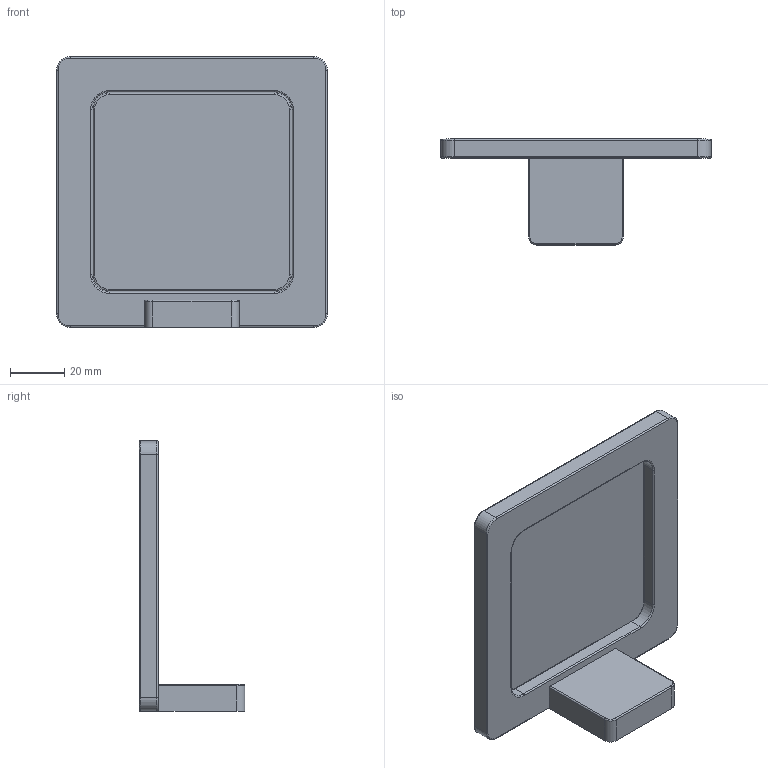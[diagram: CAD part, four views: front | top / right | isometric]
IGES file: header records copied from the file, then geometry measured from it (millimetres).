
Start section:  PTC IGES file: yas900.igs
Global section: file name: yas900.igs; native system: Pro/ENGINEER by Parametric Technology Corporation; preprocessor: 2009140; author: damjan; organization: Unknown; date: 20100804.104353; units: millimetre
Bounding box: 100 x 39 x 100 mm (x, y, z)
Volume: 53099.9 mm3; surface area: 29539.7 mm2
Topology: 2 solids, 2 shells, 123 faces, 288 edges, 172 vertices
Faces by surface type: revolution 92, bspline 31
